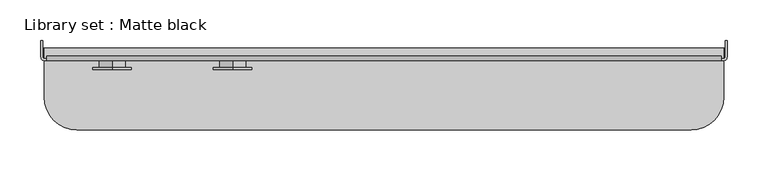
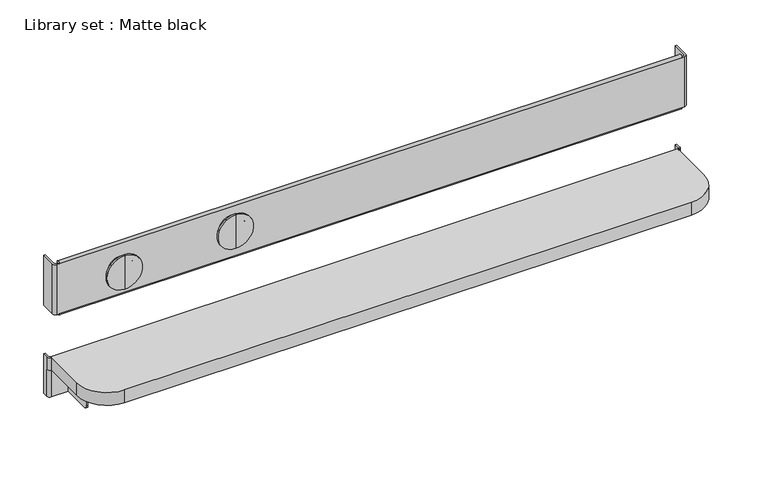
"""IFC4 building model written with IfcOpenShell, lengths in millimetres: proxy geometry, Library set : Matte black."""

from ifc_helpers import new_model, si_unit, point, frame, frame_2d, origin, place, context, project, spatial, polyline, circle_curve, trimmed, segment, composite_curve, outline, extrude, source, transform, mapped, element, save
from ifc_brep_helpers import plane_surface, cylinder_surface, revolved_surface, advanced_brep


def library_set_matte_black_b317612b(model_context):
    return source(origin(), model_context, "Body", "SolidModel", [
        extrude(outline(composite_curve([segment(polyline([(-415.0, -65.0000014), (-415.0, -5.0000014), (415.0, -5.0000014), (415.0, -65.0000014)]), True, "CONTINUOUS"), segment(trimmed(circle_curve(frame_2d((375.0, -65.0000014)), 40.0), [point((415.0, -65.0000014))], [point((375.0, -105.0000014))], False, "CARTESIAN"), True, "CONTINUOUS"), segment(polyline([(375.0, -105.0000014), (-375.0, -105.0000014)]), True, "CONTINUOUS"), segment(trimmed(circle_curve(frame_2d((-375.0, -65.0000014)), 40.0), [point((-375.0, -105.0000014))], [point((-415.0, -65.0000014))], False, "CARTESIAN"), True, "CONTINUOUS")], self_intersect=False)), frame((0.0, 0.0, 1440.0), z_axis=(0.0, 0.0, 1.0), x_axis=(1.0, 0.0, 0.0)), (0.0, 0.0, 1.0), 18.0),
        extrude(outline(composite_curve([segment(polyline([(-49.0000014, 1408.0), (-49.0000014, 1440.0), (-5.0000014, 1440.0), (-5.0000014, 1403.0), (-44.0000014, 1403.0)]), True, "CONTINUOUS"), segment(trimmed(circle_curve(frame_2d((-44.0000014, 1408.0)), 5.0), [point((-44.0000014, 1403.0))], [point((-49.0000014, 1408.0))], False, "CARTESIAN"), True, "CONTINUOUS")], self_intersect=False)), frame((391.0, 0.0, 0.0), z_axis=(1.0, 0.0, 0.0), x_axis=(0.0, 1.0, 0.0)), (0.0, 0.0, 1.0), 2.0),
        advanced_brep(
        [(-415.0, -7.0000014, 1440.0), (-393.0, -7.0000014, 1440.0), (-393.0, -5.0000014, 1440.0), (-415.0, -5.0000014, 1440.0), (-419.0, -3.0000014, 1403.0), (-419.0, 4.0, 1403.0), (-417.0, 4.0, 1403.0), (-417.0, -3.0000014, 1403.0), (-415.0, -5.0000014, 1403.0), (-393.0, -5.0000014, 1403.0), (-393.0, -7.0000014, 1403.0), (-415.0, -7.0000014, 1403.0), (-419.0, -3.0000014, 1440.0), (-417.0, -3.0000014, 1440.0), (-417.0, 4.0, 1458.0), (-417.0, -3.0000014, 1458.0), (-419.0, 4.0, 1458.0), (-419.0, -3.0000014, 1458.0), (-415.0, -7.0000014, 1458.0), (-415.0, -5.0000014, 1458.0)],
        [
            (0, 1),
            (1, 2),
            (2, 3),
            (3, 0),
            (4, 5),
            (5, 6),
            (6, 7),
            (7, 8, circle_curve(frame((-415.0, -3.0000014, 1403.0), z_axis=(0.0, 0.0, 1.0), x_axis=(1.0, 0.0, 0.0)), 2.0)),
            (8, 9),
            (9, 10),
            (10, 11),
            (11, 4, circle_curve(frame((-415.0, -3.0000014, 1403.0), z_axis=(0.0, 0.0, -1.0), x_axis=(1.0, 0.0, 0.0)), 4.0)),
            (11, 0),
            (0, 12, circle_curve(frame((-415.0, -3.0000014, 1440.0), z_axis=(0.0, 0.0, -1.0), x_axis=(1.0, 0.0, 0.0)), 4.0)),
            (12, 4),
            (10, 1),
            (9, 2),
            (8, 3),
            (7, 13),
            (13, 3, circle_curve(frame((-415.0, -3.0000014, 1440.0), z_axis=(0.0, 0.0, 1.0), x_axis=(1.0, 0.0, 0.0)), 2.0)),
            (6, 14),
            (14, 15),
            (15, 13),
            (5, 16),
            (16, 14),
            (12, 17),
            (17, 16),
            (17, 18, circle_curve(frame((-415.0, -3.0000014, 1458.0), z_axis=(0.0, 0.0, 1.0), x_axis=(1.0, 0.0, 0.0)), 4.0)),
            (18, 19),
            (19, 15, circle_curve(frame((-415.0, -3.0000014, 1458.0), z_axis=(0.0, 0.0, -1.0), x_axis=(1.0, 0.0, 0.0)), 2.0)),
            (0, 18),
            (19, 3),
        ],
        [
            plane_surface(frame((-411.0, -3.0000014, 1440.0), z_axis=(0.0, 0.0, 1.0), x_axis=(0.0, 1.0, 0.0))),
            plane_surface(frame((-411.0, -3.0000014, 1403.0), z_axis=(0.0, 0.0, -1.0), x_axis=(0.0, -1.0, 0.0))),
            cylinder_surface(frame((-415.0, -3.0000014, 1403.0), z_axis=(0.0, 0.0, 1.0), x_axis=(1.0, 0.0, 0.0)), 4.0),
            plane_surface(frame((-415.0, -7.0000014, 1440.0), z_axis=(0.0, -1.0, 0.0), x_axis=(0.0, 0.0, -1.0))),
            plane_surface(frame((-393.0, -7.0000014, 1440.0), z_axis=(1.0, 0.0, 0.0), x_axis=(0.0, 0.0, -1.0))),
            plane_surface(frame((-393.0, -5.0000014, 1440.0), z_axis=(0.0, 1.0, 0.0), x_axis=(0.0, 0.0, -1.0))),
            revolved_surface(polyline([(-413.0, -3.0000014, 1403.0), (-413.0, -3.0000014, 1440.0)]), (-415.0, -3.0000014, 1403.0), (0.0, 0.0, -1.0)),
            plane_surface(frame((-417.0, -3.0000014, 1440.0), z_axis=(1.0, 0.0, 0.0), x_axis=(0.0, 0.0, -1.0))),
            plane_surface(frame((-417.0, 4.0, 1440.0), z_axis=(0.0, 1.0, 0.0), x_axis=(0.0, 0.0, -1.0))),
            plane_surface(frame((-419.0, 4.0, 1440.0), z_axis=(-1.0, 0.0, 0.0), x_axis=(0.0, 0.0, -1.0))),
            plane_surface(frame((-411.0, -3.0000014, 1458.0), z_axis=(0.0, 0.0, 1.0), x_axis=(0.0, 1.0, 0.0))),
            cylinder_surface(frame((-415.0, -3.0000014, 1440.0), z_axis=(0.0, 0.0, 1.0), x_axis=(1.0, 0.0, 0.0)), 4.0),
            revolved_surface(polyline([(-413.0, -3.0000014, 1440.0), (-413.0, -3.0000014, 1458.0)]), (-415.0, -3.0000014, 1440.0), (0.0, 0.0, -1.0)),
            plane_surface(frame((-415.0, -7.0000014, 1458.0), z_axis=(1.0, 0.0, 0.0), x_axis=(0.0, 0.0, -1.0))),
        ],
        [
            (0, [[1, 2, 3, 4]]),
            (1, [[5, 6, 7, 8, 9, 10, 11, 12]]),
            (2, [[-12, 13, 14, 15]]),
            (3, [[-1, -13, -11, 16]]),
            (4, [[-2, -16, -10, 17]]),
            (5, [[-3, -17, -9, 18]]),
            (6, [[-8, 19, 20, -18]]),
            (7, [[-7, 21, 22, 23, -19]]),
            (8, [[-21, -6, 24, 25]]),
            (9, [[-24, -5, -15, 26, 27]]),
            (10, [[28, 29, 30, -22, -25, -27]]),
            (11, [[-28, -26, -14, 31]]),
            (12, [[-30, 32, -20, -23]]),
            (13, [[-29, -31, -4, -32]]),
        ],
    ),
        advanced_brep(
        [(415.0, -5.0000014, 1440.0), (392.6469872, -5.0000014, 1440.0), (392.6469872, -7.0000014, 1440.0), (415.0, -7.0000014, 1440.0), (419.0, -3.0000014, 1403.0), (415.0, -7.0000014, 1403.0), (392.6469872, -7.0000014, 1403.0), (392.6469872, -5.0000014, 1403.0), (415.0, -5.0000014, 1403.0), (417.0, -3.0000014, 1403.0), (417.0, 4.0, 1403.0), (419.0, 4.0, 1403.0), (419.0, 4.0, 1458.0), (419.0, -3.0000014, 1458.0), (419.0, -3.0000014, 1440.0), (417.0, 4.0, 1458.0), (417.0, -3.0000014, 1440.0), (417.0, -3.0000014, 1458.0), (415.0, -5.0000014, 1458.0), (415.0, -7.0000014, 1458.0)],
        [
            (0, 1),
            (1, 2),
            (2, 3),
            (3, 0),
            (4, 5, circle_curve(frame((415.0, -3.0000014, 1403.0), z_axis=(0.0, 0.0, -1.0), x_axis=(1.0, 0.0, 0.0)), 4.0)),
            (5, 6),
            (6, 7),
            (7, 8),
            (8, 9, circle_curve(frame((415.0, -3.0000014, 1403.0), z_axis=(0.0, 0.0, 1.0), x_axis=(1.0, 0.0, 0.0)), 2.0)),
            (9, 10),
            (10, 11),
            (11, 4),
            (11, 12),
            (12, 13),
            (13, 14),
            (14, 4),
            (10, 15),
            (15, 12),
            (9, 16),
            (16, 17),
            (17, 15),
            (8, 0),
            (0, 16, circle_curve(frame((415.0, -3.0000014, 1440.0), z_axis=(0.0, 0.0, 1.0), x_axis=(1.0, 0.0, 0.0)), 2.0)),
            (7, 1),
            (6, 2),
            (5, 3),
            (14, 3, circle_curve(frame((415.0, -3.0000014, 1440.0), z_axis=(0.0, 0.0, -1.0), x_axis=(1.0, 0.0, 0.0)), 4.0)),
            (17, 18, circle_curve(frame((415.0, -3.0000014, 1458.0), z_axis=(0.0, 0.0, -1.0), x_axis=(1.0, 0.0, 0.0)), 2.0)),
            (18, 19),
            (19, 13, circle_curve(frame((415.0, -3.0000014, 1458.0), z_axis=(0.0, 0.0, 1.0), x_axis=(1.0, 0.0, 0.0)), 4.0)),
            (0, 18),
            (19, 3),
        ],
        [
            plane_surface(frame((-411.0, -3.0000014, 1440.0), z_axis=(0.0, 0.0, 1.0), x_axis=(0.0, 1.0, 0.0))),
            plane_surface(frame((-411.0, -3.0000014, 1403.0), z_axis=(0.0, 0.0, -1.0), x_axis=(0.0, -1.0, 0.0))),
            plane_surface(frame((419.0, -3.0000014, 1440.0), z_axis=(1.0, 0.0, 0.0), x_axis=(0.0, 0.0, -1.0))),
            plane_surface(frame((419.0, 4.0, 1440.0), z_axis=(0.0, 1.0, 0.0), x_axis=(0.0, 0.0, -1.0))),
            plane_surface(frame((417.0, 4.0, 1440.0), z_axis=(-1.0, 0.0, 0.0), x_axis=(0.0, 0.0, -1.0))),
            revolved_surface(polyline([(417.0, -3.0000014, 1403.0), (417.0, -3.0000014, 1440.0)]), (415.0, -3.0000014, 340.0), (0.0, 0.0, -1.0)),
            plane_surface(frame((415.0, -5.0000014, 1440.0), z_axis=(0.0, 1.0, 0.0), x_axis=(0.0, 0.0, -1.0))),
            plane_surface(frame((392.6469872, -5.0000014, 1440.0), z_axis=(-1.0, 0.0, 0.0), x_axis=(0.0, 0.0, -1.0))),
            plane_surface(frame((392.6469872, -7.0000014, 1440.0), z_axis=(0.0, -1.0, 0.0), x_axis=(0.0, 0.0, -1.0))),
            cylinder_surface(frame((415.0, -3.0000014, 340.0), z_axis=(0.0, 0.0, 1.0), x_axis=(1.0, 0.0, 0.0)), 4.0),
            plane_surface(frame((-411.0, -3.0000014, 1458.0), z_axis=(0.0, 0.0, 1.0), x_axis=(0.0, 1.0, 0.0))),
            revolved_surface(polyline([(417.0, -3.0000014, 1440.0), (417.0, -3.0000014, 1458.0)]), (415.0, -3.0000014, 355.0), (0.0, 0.0, -1.0)),
            cylinder_surface(frame((415.0, -3.0000014, 355.0), z_axis=(0.0, 0.0, 1.0), x_axis=(1.0, 0.0, 0.0)), 4.0),
            plane_surface(frame((415.0, -5.0000014, 1458.0), z_axis=(-1.0, 0.0, 0.0), x_axis=(0.0, 0.0, -1.0))),
        ],
        [
            (0, [[1, 2, 3, 4]]),
            (1, [[5, 6, 7, 8, 9, 10, 11, 12]]),
            (2, [[-12, 13, 14, 15, 16]]),
            (3, [[-13, -11, 17, 18]]),
            (4, [[-17, -10, 19, 20, 21]]),
            (5, [[-9, 22, 23, -19]]),
            (6, [[-1, -22, -8, 24]]),
            (7, [[-2, -24, -7, 25]]),
            (8, [[-3, -25, -6, 26]]),
            (9, [[-5, -16, 27, -26]]),
            (10, [[-14, -18, -21, 28, 29, 30]]),
            (11, [[-28, -20, -23, 31]]),
            (12, [[-30, 32, -27, -15]]),
            (13, [[-29, -31, -4, -32]]),
        ],
    ),
        advanced_brep(
        [(-185.0, -29.0, 1591.7406009), (-185.0, -29.0, 1544.7406009), (-185.0, -31.0, 1544.7406009), (-185.0, -31.0, 1591.7406009), (-185.0, -29.0, 1584.2406009), (-185.0, -29.0, 1552.2406009), (-185.0, -31.0, 1568.2406009), (-185.0, -19.9994783, 1584.2406009), (-185.0, -19.9994783, 1552.2406009), (-185.0, -19.9994783, 1568.2406009)],
        [
            (0, 1, circle_curve(frame((-185.0, -29.0, 1568.2406009), z_axis=(0.0, -1.0, 0.0), x_axis=(0.0, 0.0, -1.0)), 23.5)),
            (1, 2),
            (2, 3, circle_curve(frame((-185.0, -31.0, 1568.2406009), z_axis=(0.0, 1.0, 0.0), x_axis=(0.0, 0.0, -1.0)), 23.5)),
            (3, 0),
            (1, 0, circle_curve(frame((-185.0, -29.0, 1568.2406009), z_axis=(0.0, -1.0, 0.0), x_axis=(0.0, 0.0, -1.0)), 23.5)),
            (3, 2, circle_curve(frame((-185.0, -31.0, 1568.2406009), z_axis=(0.0, 1.0, 0.0), x_axis=(0.0, 0.0, -1.0)), 23.5)),
            (4, 5, circle_curve(frame((-185.0, -29.0, 1568.2406009), z_axis=(0.0, -1.0, 0.0), x_axis=(0.0, 0.0, -1.0)), 16.0)),
            (5, 1),
            (0, 4),
            (5, 4, circle_curve(frame((-185.0, -29.0, 1568.2406009), z_axis=(0.0, -1.0, 0.0), x_axis=(0.0, 0.0, -1.0)), 16.0)),
            (2, 6),
            (6, 3),
            (7, 8, circle_curve(frame((-185.0, -19.9994783, 1568.2406009), z_axis=(0.0, -1.0, 0.0), x_axis=(0.0, 0.0, -1.0)), 16.0)),
            (8, 5),
            (4, 7),
            (8, 7, circle_curve(frame((-185.0, -19.9994783, 1568.2406009), z_axis=(0.0, -1.0, 0.0), x_axis=(0.0, 0.0, -1.0)), 16.0)),
            (9, 8),
            (7, 9),
        ],
        [
            cylinder_surface(frame((-185.0, -30.9961926, 1568.2406009), z_axis=(0.0, 1.0, 0.0), x_axis=(0.0, 0.0, -1.0)), 23.5),
            plane_surface(frame((-185.0, -29.0, 1568.2406009), z_axis=(0.0, 1.0, 0.0), x_axis=(0.0, 0.0, -1.0))),
            plane_surface(frame((-185.0, -31.0, 1568.2406009), z_axis=(0.0, -1.0, 0.0), x_axis=(0.0, 0.0, -1.0))),
            cylinder_surface(frame((-185.0, -30.9961926, 1568.2406009), z_axis=(0.0, 1.0, 0.0), x_axis=(0.0, 0.0, -1.0)), 16.0),
            plane_surface(frame((-185.0, -19.9994783, 1568.2406009), z_axis=(0.0, 1.0, 0.0), x_axis=(0.0, 0.0, -1.0))),
        ],
        [
            (0, [[1, 2, 3, 4]]),
            (0, [[5, -4, 6, -2]]),
            (1, [[7, 8, -1, 9]]),
            (1, [[10, -9, -5, -8]]),
            (2, [[-3, 11, 12]]),
            (2, [[-6, -12, -11]]),
            (3, [[13, 14, -7, 15]]),
            (3, [[16, -15, -10, -14]]),
            (4, [[17, -13, 18]]),
            (4, [[-18, -16, -17]]),
        ],
    ),
        advanced_brep(
        [(-332.0, -29.0, 1586.1710111), (-332.0, -29.0, 1539.1710111), (-332.0, -31.0, 1539.1710111), (-332.0, -31.0, 1586.1710111), (-332.0, -29.0, 1578.6710111), (-332.0, -29.0, 1546.6710111), (-332.0, -31.0, 1562.6710111), (-332.0, -19.9994783, 1578.6710111), (-332.0, -19.9994783, 1546.6710111), (-332.0, -19.9994783, 1562.6710111)],
        [
            (0, 1, circle_curve(frame((-332.0, -29.0, 1562.6710111), z_axis=(0.0, -1.0, 0.0), x_axis=(0.0, 0.0, -1.0)), 23.5)),
            (1, 2),
            (2, 3, circle_curve(frame((-332.0, -31.0, 1562.6710111), z_axis=(0.0, 1.0, 0.0), x_axis=(0.0, 0.0, -1.0)), 23.5)),
            (3, 0),
            (1, 0, circle_curve(frame((-332.0, -29.0, 1562.6710111), z_axis=(0.0, -1.0, 0.0), x_axis=(0.0, 0.0, -1.0)), 23.5)),
            (3, 2, circle_curve(frame((-332.0, -31.0, 1562.6710111), z_axis=(0.0, 1.0, 0.0), x_axis=(0.0, 0.0, -1.0)), 23.5)),
            (4, 5, circle_curve(frame((-332.0, -29.0, 1562.6710111), z_axis=(0.0, -1.0, 0.0), x_axis=(0.0, 0.0, -1.0)), 16.0)),
            (5, 1),
            (0, 4),
            (5, 4, circle_curve(frame((-332.0, -29.0, 1562.6710111), z_axis=(0.0, -1.0, 0.0), x_axis=(0.0, 0.0, -1.0)), 16.0)),
            (2, 6),
            (6, 3),
            (7, 8, circle_curve(frame((-332.0, -19.9994783, 1562.6710111), z_axis=(0.0, -1.0, 0.0), x_axis=(0.0, 0.0, -1.0)), 16.0)),
            (8, 5),
            (4, 7),
            (8, 7, circle_curve(frame((-332.0, -19.9994783, 1562.6710111), z_axis=(0.0, -1.0, 0.0), x_axis=(0.0, 0.0, -1.0)), 16.0)),
            (9, 8),
            (7, 9),
        ],
        [
            cylinder_surface(frame((-332.0, -30.9961926, 1562.6710111), z_axis=(0.0, 1.0, 0.0), x_axis=(0.0, 0.0, -1.0)), 23.5),
            plane_surface(frame((-332.0, -29.0, 1562.6710111), z_axis=(0.0, 1.0, 0.0), x_axis=(0.0, 0.0, -1.0))),
            plane_surface(frame((-332.0, -31.0, 1562.6710111), z_axis=(0.0, -1.0, 0.0), x_axis=(0.0, 0.0, -1.0))),
            cylinder_surface(frame((-332.0, -30.9961926, 1562.6710111), z_axis=(0.0, 1.0, 0.0), x_axis=(0.0, 0.0, -1.0)), 16.0),
            plane_surface(frame((-332.0, -19.9994783, 1562.6710111), z_axis=(0.0, 1.0, 0.0), x_axis=(0.0, 0.0, -1.0))),
        ],
        [
            (0, [[1, 2, 3, 4]]),
            (0, [[5, -4, 6, -2]]),
            (1, [[7, 8, -1, 9]]),
            (1, [[10, -9, -5, -8]]),
            (2, [[-3, 11, 12]]),
            (2, [[-6, -12, -11]]),
            (3, [[13, 14, -7, 15]]),
            (3, [[16, -15, -10, -14]]),
            (4, [[17, -13, 18]]),
            (4, [[-18, -16, -17]]),
        ],
    ),
        advanced_brep(
        [(-412.0, -18.0, 1533.5), (-412.0, -15.0, 1533.5), (-412.0, -15.0, 1526.0), (-412.0, -20.0, 1526.0), (-412.0, -17.9891282, 1526.0), (-412.0, -20.0, 1596.0), (-412.0, -15.0, 1596.0), (-412.0, -15.0, 1588.5), (-412.0, -18.0, 1588.5), (-412.0, -17.9891282, 1596.0), (412.0, -18.0, 1588.5), (412.0, -15.0, 1588.5), (412.0, -15.0, 1596.0), (412.0, -20.0, 1596.0), (412.0, -17.9891282, 1596.0), (412.0, -20.0, 1526.0), (412.0, -15.0, 1526.0), (412.0, -15.0, 1533.5), (412.0, -18.0, 1533.5), (412.0, -17.9891282, 1526.0), (415.0, -18.0, 1596.0), (415.0, -18.0, 1526.0), (-415.0, -18.0, 1526.0), (-415.0, -18.0, 1596.0), (415.0, -20.0, 1526.0), (415.0, -20.0, 1596.0), (-415.0, -20.0, 1596.0), (-415.0, -20.0, 1526.0), (-419.0, -15.9891282, 1596.0), (-417.0, -15.9891282, 1596.0), (-417.0, 4.0, 1596.0), (-419.0, 4.0, 1596.0), (419.0, -15.9891282, 1596.0), (419.0, 4.0, 1596.0), (417.0, 4.0, 1596.0), (417.0, -15.9891282, 1596.0), (-419.0, -15.9891282, 1526.0), (-419.0, 4.0, 1526.0), (-417.0, 4.0, 1526.0), (-417.0, -15.9891282, 1526.0), (419.0, -15.9891282, 1526.0), (417.0, -15.9891282, 1526.0), (417.0, 4.0, 1526.0), (419.0, 4.0, 1526.0)],
        [
            (0, 1),
            (1, 2),
            (2, 3, circle_curve(frame((-412.0, -17.5, 1526.0), z_axis=(-1.0, 0.0, 0.0), x_axis=(0.0, 0.0, 1.0)), 2.5)),
            (3, 4),
            (4, 0),
            (5, 6, circle_curve(frame((-412.0, -17.5, 1596.0), z_axis=(-1.0, 0.0, 0.0), x_axis=(0.0, 0.0, 1.0)), 2.5)),
            (6, 7),
            (7, 8),
            (8, 9),
            (9, 5),
            (10, 11),
            (11, 12),
            (12, 13, circle_curve(frame((412.0, -17.5, 1596.0), z_axis=(1.0, 0.0, 0.0), x_axis=(0.0, 0.0, 1.0)), 2.5)),
            (13, 14),
            (14, 10),
            (15, 16, circle_curve(frame((412.0, -17.5, 1526.0), z_axis=(1.0, 0.0, 0.0), x_axis=(0.0, 0.0, 1.0)), 2.5)),
            (16, 17),
            (17, 18),
            (18, 19),
            (19, 15),
            (8, 10),
            (14, 20),
            (20, 21),
            (21, 19),
            (18, 0),
            (4, 22),
            (22, 23),
            (23, 9),
            (17, 1),
            (16, 2),
            (15, 3),
            (15, 24),
            (24, 25),
            (25, 13),
            (13, 5),
            (5, 26),
            (26, 27),
            (27, 3),
            (12, 6),
            (11, 7),
            (28, 26, circle_curve(frame((-415.0, -15.9891282, 1596.0), z_axis=(0.0, 0.0, 1.0), x_axis=(1.0, 0.0, 0.0)), 4.0)),
            (23, 29, circle_curve(frame((-415.0, -15.9891282, 1596.0), z_axis=(0.0, 0.0, -1.0), x_axis=(1.0, 0.0, 0.0)), 2.0)),
            (29, 30),
            (30, 31),
            (31, 28),
            (32, 33),
            (33, 34),
            (34, 35),
            (35, 20, circle_curve(frame((415.0, -15.9891282, 1596.0), z_axis=(0.0, 0.0, -1.0), x_axis=(1.0, 0.0, 0.0)), 2.0)),
            (25, 32, circle_curve(frame((415.0, -15.9891282, 1596.0), z_axis=(0.0, 0.0, 1.0), x_axis=(1.0, 0.0, 0.0)), 4.0)),
            (36, 37),
            (37, 38),
            (38, 39),
            (39, 22, circle_curve(frame((-415.0, -15.9891282, 1526.0), z_axis=(0.0, 0.0, 1.0), x_axis=(1.0, 0.0, 0.0)), 2.0)),
            (27, 36, circle_curve(frame((-415.0, -15.9891282, 1526.0), z_axis=(0.0, 0.0, -1.0), x_axis=(1.0, 0.0, 0.0)), 4.0)),
            (40, 24, circle_curve(frame((415.0, -15.9891282, 1526.0), z_axis=(0.0, 0.0, -1.0), x_axis=(1.0, 0.0, 0.0)), 4.0)),
            (21, 41, circle_curve(frame((415.0, -15.9891282, 1526.0), z_axis=(0.0, 0.0, 1.0), x_axis=(1.0, 0.0, 0.0)), 2.0)),
            (41, 42),
            (42, 43),
            (43, 40),
            (28, 36),
            (39, 29),
            (38, 30),
            (37, 31),
            (32, 40),
            (43, 33),
            (42, 34),
            (41, 35),
        ],
        [
            plane_surface(frame((-412.0, 0.0, 1561.0), z_axis=(-1.0, 0.0, 0.0), x_axis=(0.0, -1.0, 0.0))),
            plane_surface(frame((412.0, 0.0, 1561.0), z_axis=(1.0, 0.0, 0.0), x_axis=(0.0, -1.0, 0.0))),
            plane_surface(frame((-412.0, -18.0, 1588.5), z_axis=(0.0, 1.0, 0.0), x_axis=(1.0, 0.0, 0.0))),
            plane_surface(frame((-412.0, -18.0, 1533.5), z_axis=(0.0, 0.0, 1.0), x_axis=(1.0, 0.0, 0.0))),
            plane_surface(frame((-412.0, -15.0, 1533.5), z_axis=(0.0, 1.0, 0.0), x_axis=(1.0, 0.0, 0.0))),
            cylinder_surface(frame((-412.0, -17.5, 1526.0), z_axis=(-1.0, 0.0, 0.0), x_axis=(0.0, 0.0, 1.0)), 2.5),
            plane_surface(frame((-412.0, -20.0, 1526.0), z_axis=(0.0, -1.0, 0.0), x_axis=(1.0, 0.0, 0.0))),
            cylinder_surface(frame((-412.0, -17.5, 1596.0), z_axis=(-1.0, 0.0, 0.0), x_axis=(0.0, 0.0, 1.0)), 2.5),
            plane_surface(frame((-412.0, -15.0, 1596.0), z_axis=(0.0, 1.0, 0.0), x_axis=(1.0, 0.0, 0.0))),
            plane_surface(frame((-412.0, -15.0, 1588.5), z_axis=(0.0, 0.0, -1.0), x_axis=(1.0, 0.0, 0.0))),
            plane_surface(frame((-411.0, -15.9891282, 1596.0), z_axis=(0.0, 0.0, 1.0), x_axis=(0.0, 1.0, 0.0))),
            plane_surface(frame((-411.0, -15.9891282, 1526.0), z_axis=(0.0, 0.0, -1.0), x_axis=(0.0, -1.0, 0.0))),
            cylinder_surface(frame((-415.0, -15.9891282, 1526.0), z_axis=(0.0, 0.0, 1.0), x_axis=(1.0, 0.0, 0.0)), 4.0),
            revolved_surface(polyline([(-413.0, -15.9891282, 1526.0), (-413.0, -15.9891282, 1596.0)]), (-415.0, -15.9891282, 1526.0), (0.0, 0.0, -1.0)),
            plane_surface(frame((-417.0, -15.9891282, 1596.0), z_axis=(1.0, 0.0, 0.0), x_axis=(0.0, 0.0, -1.0))),
            plane_surface(frame((-417.0, 4.0, 1596.0), z_axis=(0.0, 1.0, 0.0), x_axis=(0.0, 0.0, -1.0))),
            plane_surface(frame((-419.0, 4.0, 1596.0), z_axis=(-1.0, 0.0, 0.0), x_axis=(0.0, 0.0, -1.0))),
            plane_surface(frame((419.0, -15.9891282, 1596.0), z_axis=(1.0, 0.0, 0.0), x_axis=(0.0, 0.0, -1.0))),
            plane_surface(frame((419.0, 4.0, 1596.0), z_axis=(0.0, 1.0, 0.0), x_axis=(0.0, 0.0, -1.0))),
            plane_surface(frame((417.0, 4.0, 1596.0), z_axis=(-1.0, 0.0, 0.0), x_axis=(0.0, 0.0, -1.0))),
            revolved_surface(polyline([(417.0, -15.9891282, 1526.0), (417.0, -15.9891282, 1596.0)]), (415.0, -15.9891282, 0.0), (0.0, 0.0, -1.0)),
            cylinder_surface(frame((415.0, -15.9891282, 0.0), z_axis=(0.0, 0.0, 1.0), x_axis=(1.0, 0.0, 0.0)), 4.0),
        ],
        [
            (0, [[1, 2, 3, 4, 5]]),
            (0, [[6, 7, 8, 9, 10]]),
            (1, [[11, 12, 13, 14, 15]]),
            (1, [[16, 17, 18, 19, 20]]),
            (2, [[21, -15, 22, 23, 24, -19, 25, -5, 26, 27, 28, -9]]),
            (3, [[-1, -25, -18, 29]]),
            (4, [[-2, -29, -17, 30]]),
            (5, [[-3, -30, -16, 31]]),
            (6, [[-31, 32, 33, 34, 35, 36, 37, 38]]),
            (7, [[-6, -35, -13, 39]]),
            (8, [[-7, -39, -12, 40]]),
            (9, [[-8, -40, -11, -21]]),
            (10, [[41, -36, -10, -28, 42, 43, 44, 45]]),
            (10, [[46, 47, 48, 49, -22, -14, -34, 50]]),
            (11, [[51, 52, 53, 54, -26, -4, -38, 55]]),
            (11, [[56, -32, -20, -24, 57, 58, 59, 60]]),
            (12, [[-41, 61, -55, -37]]),
            (13, [[-42, -27, -54, 62]]),
            (14, [[-43, -62, -53, 63]]),
            (15, [[-44, -63, -52, 64]]),
            (16, [[-45, -64, -51, -61]]),
            (17, [[-46, 65, -60, 66]]),
            (18, [[-47, -66, -59, 67]]),
            (19, [[-48, -67, -58, 68]]),
            (20, [[-49, -68, -57, -23]]),
            (21, [[-50, -33, -56, -65]]),
        ],
    ),
        extrude(outline(composite_curve([segment(polyline([(-391.0, -51.9994783), (-391.0, -5.0000014), (391.0, -5.0000014), (391.0, -51.9994783)]), True, "CONTINUOUS"), segment(trimmed(circle_curve(frame_2d((386.0, -51.9994783)), 5.0), [point((391.0, -51.9994783))], [point((386.0, -56.9994783))], False, "CARTESIAN"), True, "CONTINUOUS"), segment(polyline([(386.0, -56.9994783), (-386.0, -56.9994783)]), True, "CONTINUOUS"), segment(trimmed(circle_curve(frame_2d((-386.0, -51.9994783)), 5.0), [point((-386.0, -56.9994783))], [point((-391.0, -51.9994783))], False, "CARTESIAN"), True, "CONTINUOUS")], self_intersect=False)), frame((0.0, 0.0, 1438.0), z_axis=(0.0, 0.0, 1.0), x_axis=(1.0, 0.0, 0.0)), (0.0, 0.0, 1.0), 2.0),
        extrude(outline(composite_curve([segment(polyline([(-49.0000014, 1408.0), (-49.0000014, 1440.0), (-5.0000014, 1440.0), (-5.0000014, 1403.0), (-44.0000014, 1403.0)]), True, "CONTINUOUS"), segment(trimmed(circle_curve(frame_2d((-44.0000014, 1408.0)), 5.0), [point((-44.0000014, 1403.0))], [point((-49.0000014, 1408.0))], False, "CARTESIAN"), True, "CONTINUOUS")], self_intersect=False)), frame((-393.0, 0.0, 0.0), z_axis=(1.0, 0.0, 0.0), x_axis=(0.0, 1.0, 0.0)), (0.0, 0.0, 1.0), 2.0),
    ])


if __name__ == "__main__":
    model = new_model("IFC4")
    model_context = context("Model", 3, world=origin())
    ifc_project = project(units=[si_unit("LENGTHUNIT", "METRE", prefix="MILLI")], contexts=[model_context])
    site = spatial("IfcSite", under=ifc_project)
    building = spatial("IfcBuilding", under=site)
    placement = place(None, origin())
    library_set_matte_black_shape = library_set_matte_black_b317612b(model_context)
    element("IfcBuildingElementProxy", 1, Name="Library set : Matte black", ObjectType="Library set : Matte black", at=placement, inside=building, context=model_context, shape_type="MappedRepresentation", body=[
        mapped(library_set_matte_black_shape, transform((0.0, 0.0, 0.0), x_axis=(1.0, 0.0, 0.0), y_axis=(0.0, 1.0, 0.0), z_axis=(0.0, 0.0, 1.0))),
    ])
    save(model, "model.ifc")
